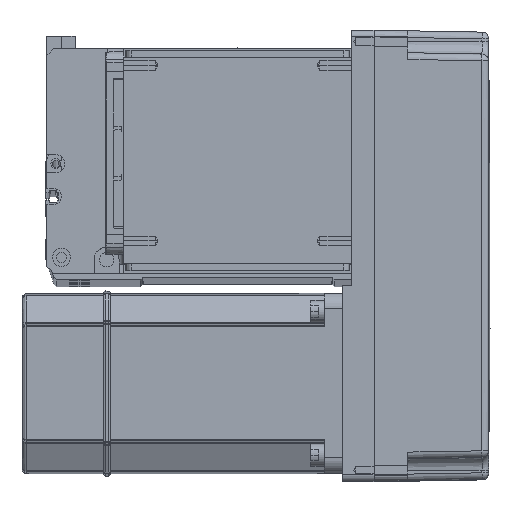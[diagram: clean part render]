
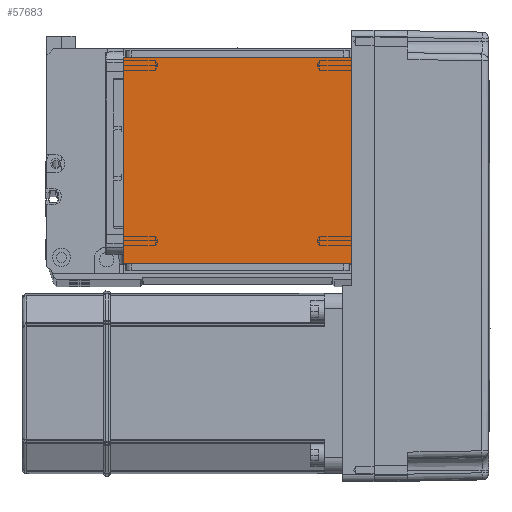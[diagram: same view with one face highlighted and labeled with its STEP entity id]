
A CAD part, top view. The second image highlights one B-rep face of the part: STEP entity #57683.
In plain terms, the highlighted planar face has unit normal (0, 0, 1).
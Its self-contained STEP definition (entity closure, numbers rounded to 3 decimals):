
#300 = FACE_OUTER_BOUND ( 'NONE', #27603, .T. ) ;
#1078 = ORIENTED_EDGE ( 'NONE', *, *, #53225, .T. ) ;
#1424 = LINE ( 'NONE', #37538, #55391 ) ;
#2247 = VECTOR ( 'NONE', #39133, 1000. ) ;
#5678 = CARTESIAN_POINT ( 'NONE',  ( -70.004, 111.5, 115. ) ) ;
#11624 = VERTEX_POINT ( 'NONE', #58621 ) ;
#12686 = DIRECTION ( 'NONE',  ( 1., 0., 0. ) ) ;
#14099 = ORIENTED_EDGE ( 'NONE', *, *, #59659, .F. ) ;
#17297 = VECTOR ( 'NONE', #49949, 1000. ) ;
#17353 = CARTESIAN_POINT ( 'NONE',  ( 50.5, 122., 115. ) ) ;
#17360 = PLANE ( 'NONE',  #21972 ) ;
#17774 = DIRECTION ( 'NONE',  ( 0., 0., 1. ) ) ;
#21972 = AXIS2_PLACEMENT_3D ( 'NONE', #59122, #17774, #12686 ) ;
#24564 = DIRECTION ( 'NONE',  ( 1., 0., 0. ) ) ;
#27485 = VERTEX_POINT ( 'NONE', #48354 ) ;
#27603 = EDGE_LOOP ( 'NONE', ( #14099, #1078, #38836, #54098 ) ) ;
#32696 = CARTESIAN_POINT ( 'NONE',  ( -50.5, 20., 115. ) ) ;
#37449 = LINE ( 'NONE', #5678, #40057 ) ;
#37538 = CARTESIAN_POINT ( 'NONE',  ( -50.5, 122., 115. ) ) ;
#37591 = EDGE_CURVE ( 'NONE', #11624, #41935, #47919, .T. ) ;
#38836 = ORIENTED_EDGE ( 'NONE', *, *, #47702, .F. ) ;
#39133 = DIRECTION ( 'NONE',  ( -1., 0., 0. ) ) ;
#39198 = VERTEX_POINT ( 'NONE', #32696 ) ;
#40057 = VECTOR ( 'NONE', #24564, 1000. ) ;
#41935 = VERTEX_POINT ( 'NONE', #43313 ) ;
#43313 = CARTESIAN_POINT ( 'NONE',  ( 50.5, 111.5, 115. ) ) ;
#47702 = EDGE_CURVE ( 'NONE', #11624, #39198, #50357, .T. ) ;
#47919 = LINE ( 'NONE', #17353, #17297 ) ;
#48354 = CARTESIAN_POINT ( 'NONE',  ( -50.5, 111.5, 115. ) ) ;
#48378 = CARTESIAN_POINT ( 'NONE',  ( -70.004, 20., 115. ) ) ;
#49949 = DIRECTION ( 'NONE',  ( 0., 1., 0. ) ) ;
#50357 = LINE ( 'NONE', #48378, #2247 ) ;
#53225 = EDGE_CURVE ( 'NONE', #27485, #39198, #1424, .T. ) ;
#54098 = ORIENTED_EDGE ( 'NONE', *, *, #37591, .T. ) ;
#55391 = VECTOR ( 'NONE', #56157, 1000. ) ;
#56157 = DIRECTION ( 'NONE',  ( 0., -1., 0. ) ) ;
#57683 = ADVANCED_FACE ( 'NONE', ( #300 ), #17360, .T. ) ;
#58621 = CARTESIAN_POINT ( 'NONE',  ( 50.5, 20., 115. ) ) ;
#59122 = CARTESIAN_POINT ( 'NONE',  ( 0., 0., 115. ) ) ;
#59659 = EDGE_CURVE ( 'NONE', #27485, #41935, #37449, .T. ) ;
